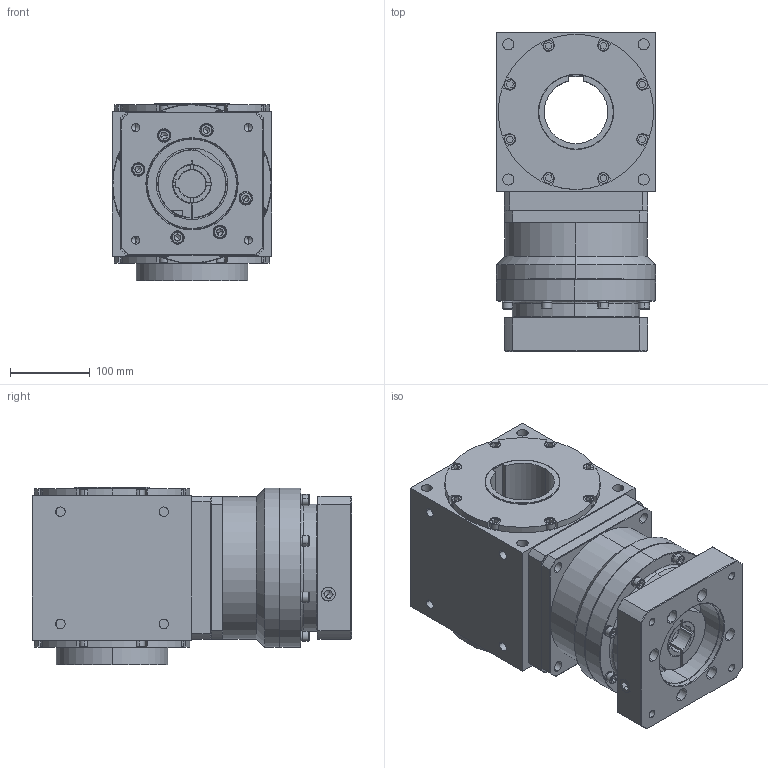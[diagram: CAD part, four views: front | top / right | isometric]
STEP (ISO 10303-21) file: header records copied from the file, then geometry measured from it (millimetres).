
FILE_DESCRIPTION (( 'STEP AP203' ), '1' );
FILE_NAME ('AAW200AS-L1-RFK 35-114.3-200-M12.STEP', '2024-12-24T09:09:01', ( '' ), ( '' ), 'SwSTEP 2.0', 'SolidWorks 2021', '' );
FILE_SCHEMA (( 'CONFIG_CONTROL_DESIGN' ));
Length unit declared in the file: millimetre
Products named in the file (3): AAW200AS-L1-RFK 35-114.3-200-M12; KS180L1-114.3-35-82-M12-200俋倛芞; AAW200AS-RFK
Assembly tree (2 placements, depth 2):
  AAW200AS-L1-RFK 35-114.3-200-M12
    AAW200AS-RFK
    KS180L1-114.3-35-82-M12-200俋倛芞
Bounding box: 200 x 401 x 222.5 mm (x, y, z)
Volume: 12152623.3 mm3; surface area: 760948 mm2
Topology: 36 solids, 36 shells, 1229 faces, 2932 edges, 1811 vertices
Faces by surface type: plane 591, cylinder 437, cone 167, bspline 32, torus 2
Entity records: 35914 total; most frequent: CARTESIAN_POINT 7082, DIRECTION 6231, ORIENTED_EDGE 5704, EDGE_CURVE 2852, AXIS2_PLACEMENT_3D 2346, VERTEX_POINT 1811, VECTOR 1539, LINE 1539
